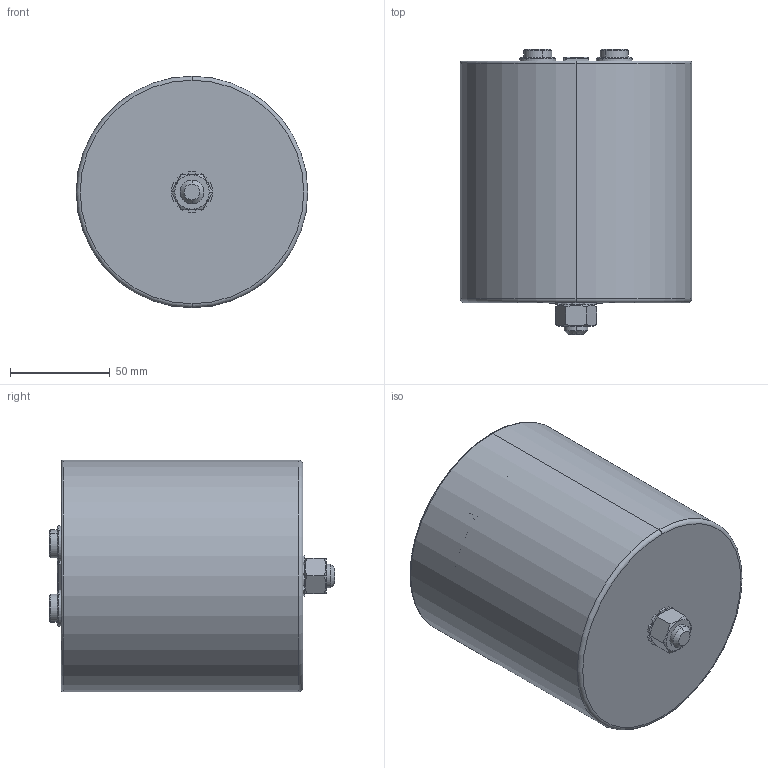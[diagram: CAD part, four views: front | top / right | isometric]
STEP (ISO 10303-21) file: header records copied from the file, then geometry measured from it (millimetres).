
FILE_DESCRIPTION (( 'STEP AP203' ), '1' );
FILE_NAME ('B25690Ax_116x121_127.STEP', '2021-09-07T04:10:11', ( '' ), ( '' ), 'SwSTEP 2.0', 'SolidWorks 2017', '' );
FILE_SCHEMA (( 'CONFIG_CONTROL_DESIGN' ));
Length unit declared in the file: millimetre
Products named in the file (1): B25690Ax_116x121_127
Bounding box: 116 x 143 x 116 mm (x, y, z)
Volume: 182583.5 mm3; surface area: 133335 mm2
Topology: 1 solids, 3 shells, 263 faces, 675 edges, 423 vertices
Faces by surface type: plane 135, cylinder 76, cone 40, torus 8, sphere 4
Entity records: 8245 total; most frequent: CARTESIAN_POINT 1902, ORIENTED_EDGE 1342, DIRECTION 1342, EDGE_CURVE 671, AXIS2_PLACEMENT_3D 527, VERTEX_POINT 423, LINE 288, VECTOR 288
